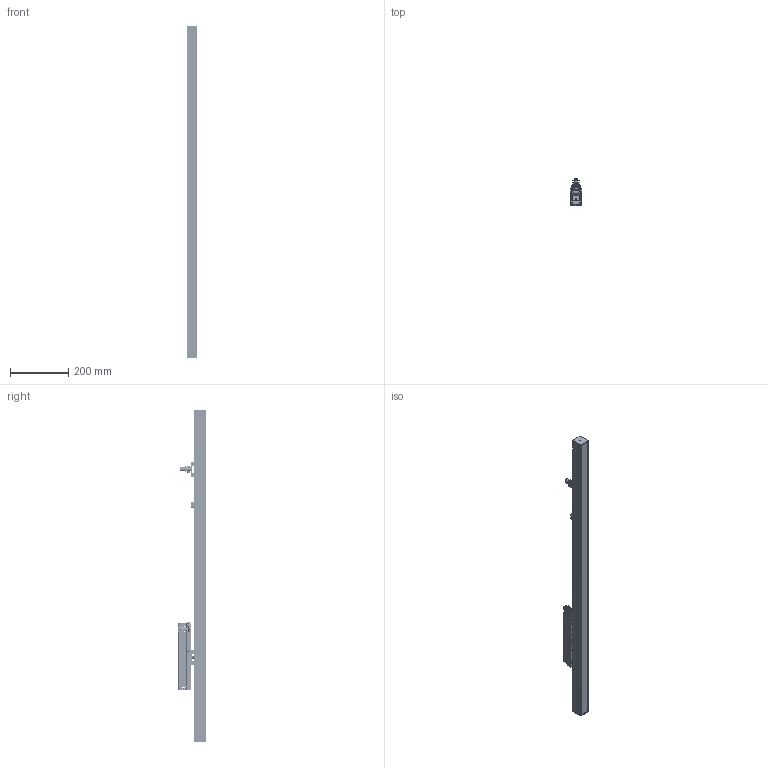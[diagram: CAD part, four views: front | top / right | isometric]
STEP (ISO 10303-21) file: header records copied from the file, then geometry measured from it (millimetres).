
FILE_DESCRIPTION(/* description */ (''),/* implementation_level */ '2;1');
FILE_NAME(/* name */ 'C:\Users\quotes\OneDrive - M LIGHT PTY LTD\Documents\Inventor\Projects\Mlight Projects Team\ENGINEERING - CAD\Favors\Akhila\Track Step File\Pico 4B\mLight Pico 4B 1142mm Track Module_Simplify_1.stp',/* time_stamp */ '2024-06-03T17:09:30+10:00',/* author */ ('quotes'),/* organization */ (''),/* preprocessor_version */ 'ST-DEVELOPER v18.1',/* originating_system */ 'Autodesk Inventor 2022',/* authorisation */ '');
FILE_SCHEMA (('AUTOMOTIVE_DESIGN { 1 0 10303 214 3 1 1 }'));
Products named in the file (1): mLight Pico 4B 1142mm Track Module_Simplify_1
Bounding box: 35.2 x 94.72 x 1142 mm (x, y, z)
Volume: 478062 mm3; surface area: 589177.4 mm2
Topology: 8 solids, 8 shells, 10796 faces, 30608 edges, 19650 vertices
Faces by surface type: plane 5824, cylinder 2710, bspline 1506, torus 287, cone 274, sphere 195
Full cylindrical faces by diameter (mm): 0.376 x3, 0.843 x2, 0.85 x6, 1.414 x4, 1.478 x2, 1.5 x1, 1.7 x4, 1.97 x2, 2 x5, 2.167 x4, 2.463 x2, 2.5 x2, 2.8 x5, 2.956 x3, 3 x5, 3.3 x4, 3.5 x2, 3.972 x2, 4 x8, 5.2 x1, 5.6 x1, 6 x1, 6.5 x1, 6.6 x1, 6.8 x1, 7.8 x3, 8.4 x1, 8.8 x1, 10 x2, 12.7 x1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
Entity records: 633309 total; most frequent: CARTESIAN_POINT 350528, ORIENTED_EDGE 61054, DIRECTION 51306, EDGE_CURVE 30527, VERTEX_POINT 19642, LINE 19176, VECTOR 19176, AXIS2_PLACEMENT_3D 16065
